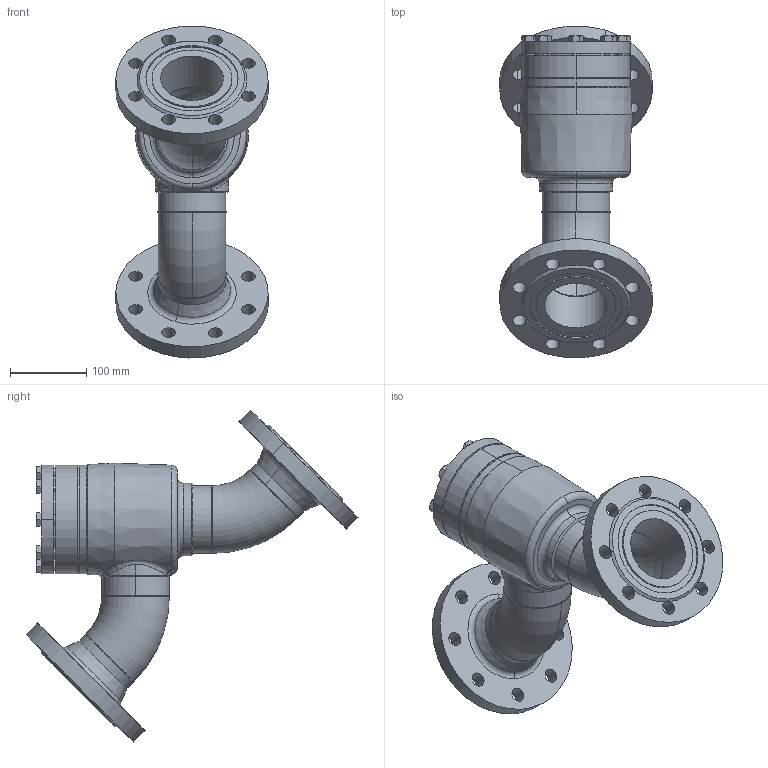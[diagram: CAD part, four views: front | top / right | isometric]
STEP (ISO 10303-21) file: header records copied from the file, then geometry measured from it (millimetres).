
FILE_DESCRIPTION (( 'STEP AP214' ), '1' );
FILE_NAME ('SS52320D18-DN080_DIN-FL-N_PS40.STEP', '2007-01-08T09:50:15', ( 'Herr Grams' ), ( 'AWP GmbH' ), 'SwSTEP 2.0', 'SolidWorks 2002296', '' );
FILE_SCHEMA (( 'AUTOMOTIVE_DESIGN' ));
Length unit declared in the file: millimetre
Products named in the file (16): SS52320D18-DN080_DIN-FL-N_PS40; Gehäuse-kpl16320-DN080_DIN_PS40_Standard; Gehäuse-kpl16300-DN080_R1_Standard; Gehäuse-kpl16400-DN080_R1_Standard; bead-DN080-1_Standard; Kopfstück16300-DN080_Standard; Gehäuse16400-DN080_Standard; Rohrbogen 45°_Rohrbogen-DN080-45°; bead-DN080-2_Standard; bead-DN080-3_Standard; Flansch-DIN-Nut_PS40_DIN-Flansch-DN080_PS40-Nut; bead-DN080-6_Standard; bead-DN080-7_Standard; SS52300E18_Deck+Schr-DN80_Standard; Deckel52300E18-DN80_Standard; Sechskantschraube-DIN933_M12x 30
Assembly tree (24 placements, depth 5):
  SS52320D18-DN080_DIN-FL-N_PS40
    Gehäuse-kpl16320-DN080_DIN_PS40_Standard
      Flansch-DIN-Nut_PS40_DIN-Flansch-DN080_PS40-Nut  x2
      bead-DN080-6_Standard
      bead-DN080-7_Standard
      Gehäuse-kpl16300-DN080_R1_Standard
        Gehäuse-kpl16400-DN080_R1_Standard
          Kopfstück16300-DN080_Standard
          Gehäuse16400-DN080_Standard
          bead-DN080-1_Standard
        Rohrbogen 45°_Rohrbogen-DN080-45°  x2
        bead-DN080-3_Standard
        bead-DN080-2_Standard
    SS52300E18_Deck+Schr-DN80_Standard
      Sechskantschraube-DIN933_M12x 30  x8
      Deckel52300E18-DN80_Standard
Bounding box: 199.81 x 435.48 x 435.48 mm (x, y, z)
Volume: 2708890.5 mm3; surface area: 580176.2 mm2
Topology: 20 solids, 20 shells, 399 faces, 918 edges, 563 vertices
Faces by surface type: cone 131, cylinder 114, plane 110, bspline 28, torus 16
Entity records: 18774 total; most frequent: CARTESIAN_POINT 13795, DIRECTION 893, ORIENTED_EDGE 856, EDGE_CURVE 428, AXIS2_PLACEMENT_3D 400, VERTEX_POINT 271, EDGE_LOOP 233, CIRCLE 217
